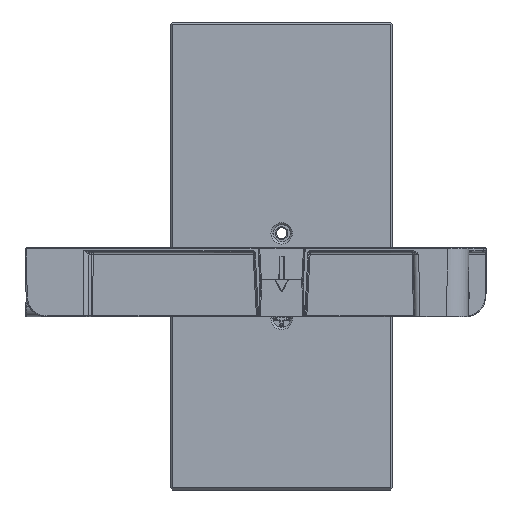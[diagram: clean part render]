
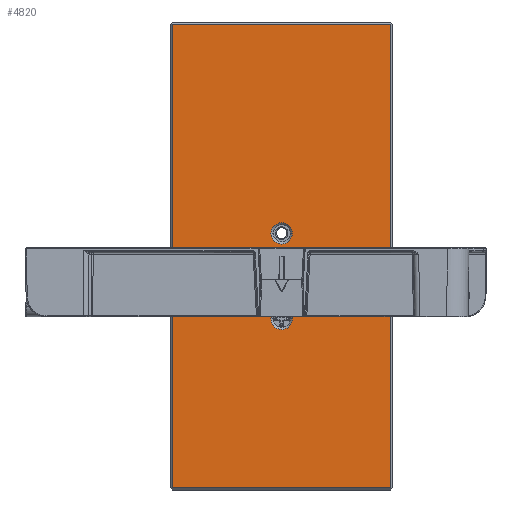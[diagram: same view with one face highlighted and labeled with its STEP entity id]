
A CAD part, front view. The second image highlights one B-rep face of the part: STEP entity #4820.
In plain terms, the highlighted planar face has unit normal (0, -1, 0).
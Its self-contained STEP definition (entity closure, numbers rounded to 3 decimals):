
#580=CARTESIAN_POINT('',(97.,104.,186.6));
#590=VERTEX_POINT('',#580);
#620=CARTESIAN_POINT('',(148.,104.,186.6));
#630=DIRECTION('',(-1.,0.,0.));
#640=VECTOR('',#630,1.);
#650=LINE('',#620,#640);
#660=CARTESIAN_POINT('',(199.,104.,186.6));
#670=VERTEX_POINT('',#660);
#680=EDGE_CURVE('',#670,#590,#650,.T.);
#3380=CARTESIAN_POINT('',(199.,104.,403.4));
#3390=VERTEX_POINT('',#3380);
#3420=CARTESIAN_POINT('',(148.,104.,403.4));
#3430=DIRECTION('',(-1.,0.,0.));
#3440=VECTOR('',#3430,1.);
#3450=LINE('',#3420,#3440);
#3460=CARTESIAN_POINT('',(97.,104.,403.4));
#3470=VERTEX_POINT('',#3460);
#3480=EDGE_CURVE('',#3390,#3470,#3450,.T.);
#4230=CARTESIAN_POINT('',(198.,104.,111.));
#4240=DIRECTION('',(0.,-1.,0.));
#4250=DIRECTION('',(-1.,0.,0.));
#4260=AXIS2_PLACEMENT_3D('',#4230,#4240,#4250);
#4270=PLANE('',#4260);
#4280=CARTESIAN_POINT('',(148.,104.,305.6));
#4290=DIRECTION('',(0.,-1.,0.));
#4300=DIRECTION('',(-1.,0.,0.));
#4310=AXIS2_PLACEMENT_3D('',#4280,#4290,#4300);
#4320=CIRCLE('',#4310,5.);
#4330=CARTESIAN_POINT('',(148.,104.,310.6));
#4340=VERTEX_POINT('',#4330);
#4350=CARTESIAN_POINT('',(143.,104.,305.6));
#4360=VERTEX_POINT('',#4350);
#4370=EDGE_CURVE('',#4340,#4360,#4320,.T.);
#4380=ORIENTED_EDGE('',*,*,#4370,.F.);
#4390=CARTESIAN_POINT('',(153.,104.,305.6));
#4400=VERTEX_POINT('',#4390);
#4410=EDGE_CURVE('',#4360,#4400,#4320,.T.);
#4420=ORIENTED_EDGE('',*,*,#4410,.F.);
#4430=EDGE_CURVE('',#4400,#4340,#4320,.T.);
#4440=ORIENTED_EDGE('',*,*,#4430,.F.);
#4450=EDGE_LOOP('',(#4440,#4420,#4380));
#4460=FACE_BOUND('',#4450,.T.);
#4470=CARTESIAN_POINT('',(148.,104.,265.6));
#4480=DIRECTION('',(0.,-1.,0.));
#4490=DIRECTION('',(-1.,0.,0.));
#4500=AXIS2_PLACEMENT_3D('',#4470,#4480,#4490);
#4510=CIRCLE('',#4500,5.);
#4520=CARTESIAN_POINT('',(148.,104.,270.6));
#4530=VERTEX_POINT('',#4520);
#4540=CARTESIAN_POINT('',(143.,104.,265.6));
#4550=VERTEX_POINT('',#4540);
#4560=EDGE_CURVE('',#4530,#4550,#4510,.T.);
#4570=ORIENTED_EDGE('',*,*,#4560,.F.);
#4580=CARTESIAN_POINT('',(153.,104.,265.6));
#4590=VERTEX_POINT('',#4580);
#4600=EDGE_CURVE('',#4550,#4590,#4510,.T.);
#4610=ORIENTED_EDGE('',*,*,#4600,.F.);
#4620=EDGE_CURVE('',#4590,#4530,#4510,.T.);
#4630=ORIENTED_EDGE('',*,*,#4620,.F.);
#4640=EDGE_LOOP('',(#4630,#4610,#4570));
#4650=FACE_BOUND('',#4640,.T.);
#4660=ORIENTED_EDGE('',*,*,#3480,.T.);
#4670=CARTESIAN_POINT('',(199.,104.,111.));
#4680=DIRECTION('',(0.,0.,1.));
#4690=VECTOR('',#4680,1.);
#4700=LINE('',#4670,#4690);
#4710=EDGE_CURVE('',#670,#3390,#4700,.T.);
#4720=ORIENTED_EDGE('',*,*,#4710,.T.);
#4730=ORIENTED_EDGE('',*,*,#680,.F.);
#4740=CARTESIAN_POINT('',(97.,104.,111.));
#4750=DIRECTION('',(0.,0.,1.));
#4760=VECTOR('',#4750,1.);
#4770=LINE('',#4740,#4760);
#4780=EDGE_CURVE('',#590,#3470,#4770,.T.);
#4790=ORIENTED_EDGE('',*,*,#4780,.F.);
#4800=EDGE_LOOP('',(#4790,#4730,#4720,#4660));
#4810=FACE_OUTER_BOUND('',#4800,.T.);
#4820=ADVANCED_FACE('',(#4460,#4650,#4810),#4270,.T.);
